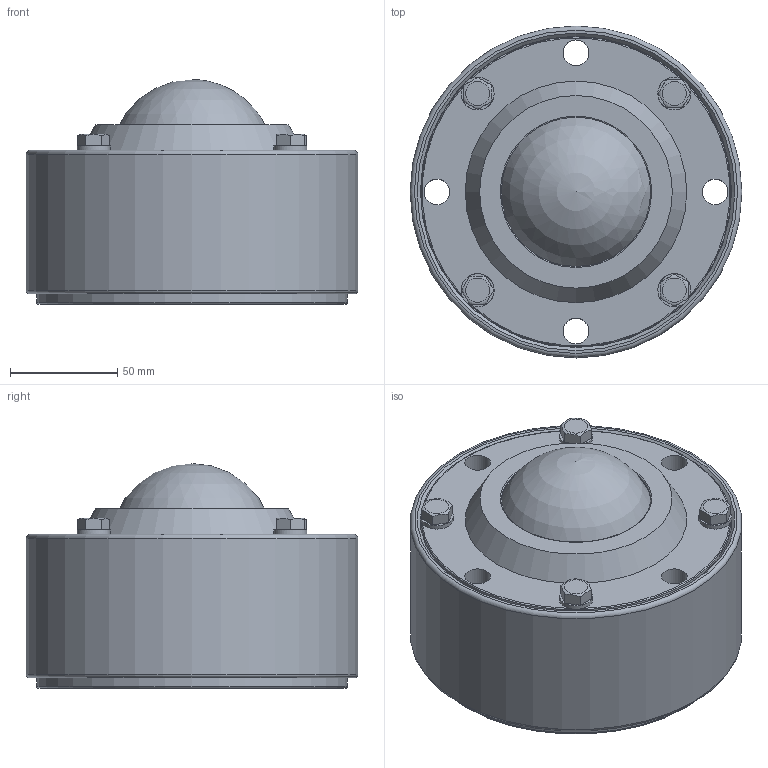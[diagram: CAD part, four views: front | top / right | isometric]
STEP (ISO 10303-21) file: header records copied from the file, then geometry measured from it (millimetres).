
FILE_DESCRIPTION(/* description */ (''),/* implementation_level */ '2;1');
FILE_NAME(/* name */ 'Z:\34-Tei\web 3Dデータ\IS型\IS-76.stp',/* time_stamp */ '2015-01-06T15:20:02+09:00',/* author */ ('yamaki'),/* organization */ (''),/* preprocessor_version */ 'ST-DEVELOPER v15.6',/* originating_system */ 'Autodesk Inventor 2015',/* authorisation */ '');
FILE_SCHEMA (('AUTOMOTIVE_DESIGN { 1 0 10303 214 3 1 1 }'));
Length unit declared in the file: millimetre
Products named in the file (1): IS-76
Bounding box: 155 x 155 x 105 mm (x, y, z)
Volume: 1446452.3 mm3; surface area: 91958 mm2
Topology: 1 solids, 1 shells, 71 faces, 164 edges, 104 vertices
Faces by surface type: plane 43, cylinder 14, torus 10, cone 3, sphere 1
Full cylindrical faces by diameter (mm): 12 x4, 15.4 x4, 67 x1, 69.7 x1, 144.9 x1, 145 x1, 145.4 x1, 155 x1
Entity records: 2074 total; most frequent: CARTESIAN_POINT 530, DIRECTION 298, ORIENTED_EDGE 250, EDGE_CURVE 125, AXIS2_PLACEMENT_3D 125, EDGE_LOOP 116, VERTEX_POINT 93, STYLED_ITEM 72
